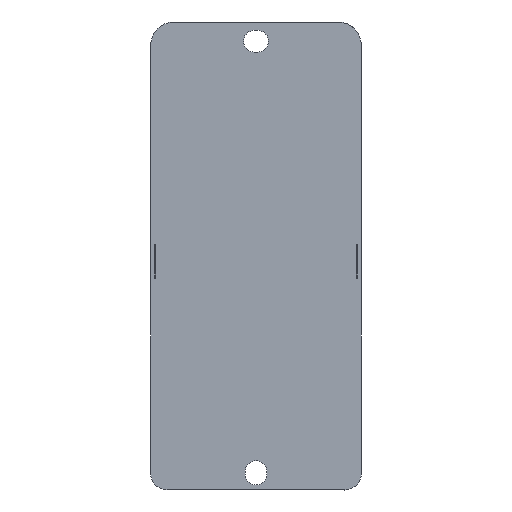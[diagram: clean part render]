
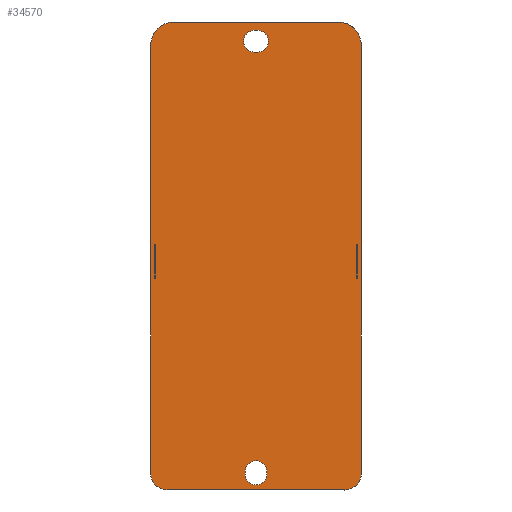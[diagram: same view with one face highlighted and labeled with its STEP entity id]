
A CAD part, front view. The second image highlights one B-rep face of the part: STEP entity #34570.
In plain terms, the highlighted planar face has unit normal (0, -1, 0).
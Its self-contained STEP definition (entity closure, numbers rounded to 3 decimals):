
#23259=CARTESIAN_POINT('',(-26.5,0.,-50.46));
#23260=DIRECTION('',(0.,1.,0.));
#23261=DIRECTION('',(0.,0.,-1.));
#23262=AXIS2_PLACEMENT_3D('',#23259,#23260,#23261);
#23264=DIRECTION('',(0.,0.,1.));
#23265=VECTOR('',#23264,128.);
#23266=CARTESIAN_POINT('',(-31.5,0.,-50.46));
#23267=LINE('',#23266,#23265);
#23268=CARTESIAN_POINT('',(-24.5,0.,77.539));
#23269=DIRECTION('',(0.,1.,0.));
#23270=DIRECTION('',(-1.,0.,0.));
#23271=AXIS2_PLACEMENT_3D('',#23268,#23269,#23270);
#23273=DIRECTION('',(1.,0.,0.));
#23274=VECTOR('',#23273,49.);
#23275=CARTESIAN_POINT('',(-24.5,0.,
84.539));
#23276=LINE('',#23275,#23274);
#23277=CARTESIAN_POINT('',(24.5,0.,77.539));
#23278=DIRECTION('',(0.,1.,0.));
#23279=DIRECTION('',(0.,0.,1.));
#23280=AXIS2_PLACEMENT_3D('',#23277,#23278,#23279);
#23282=DIRECTION('',(0.,0.,-1.));
#23283=VECTOR('',#23282,128.);
#23284=CARTESIAN_POINT('',(31.5,0.,77.539));
#23285=LINE('',#23284,#23283);
#23286=CARTESIAN_POINT('',(26.5,0.,-50.46));
#23287=DIRECTION('',(0.,1.,0.));
#23288=DIRECTION('',(1.,0.,0.));
#23289=AXIS2_PLACEMENT_3D('',#23286,#23287,#23288);
#23291=DIRECTION('',(1.,0.,0.));
#23292=VECTOR('',#23291,0.3);
#23293=CARTESIAN_POINT('',(-30.3,0.,7.929));
#23294=LINE('',#23293,#23292);
#23295=DIRECTION('',(0.,0.,1.));
#23296=VECTOR('',#23295,10.143);
#23297=CARTESIAN_POINT('',(-30.,0.,7.929));
#23298=LINE('',#23297,#23296);
#23299=DIRECTION('',(-1.,0.,0.));
#23300=VECTOR('',#23299,0.3);
#23301=CARTESIAN_POINT('',(-30.,0.,18.071));
#23302=LINE('',#23301,#23300);
#23303=DIRECTION('',(0.,0.,-1.));
#23304=VECTOR('',#23303,10.143);
#23305=CARTESIAN_POINT('',(-30.3,0.,18.071));
#23306=LINE('',#23305,#23304);
#23307=CARTESIAN_POINT('',(0.,0.,-49.91));
#23308=DIRECTION('',(0.,-1.,0.));
#23309=DIRECTION('',(1.,0.,0.));
#23310=AXIS2_PLACEMENT_3D('',#23307,#23308,#23309);
#23312=DIRECTION('',(0.,0.,-1.));
#23313=VECTOR('',#23312,0.8);
#23314=CARTESIAN_POINT('',(-3.25,0.,-49.91));
#23315=LINE('',#23314,#23313);
#23316=CARTESIAN_POINT('',(0.,0.,-50.71));
#23317=DIRECTION('',(0.,-1.,0.));
#23318=DIRECTION('',(-1.,0.,0.));
#23319=AXIS2_PLACEMENT_3D('',#23316,#23317,#23318);
#23321=DIRECTION('',(0.,0.,1.));
#23322=VECTOR('',#23321,0.8);
#23323=CARTESIAN_POINT('',(3.25,0.,-50.71));
#23324=LINE('',#23323,#23322);
#23325=CARTESIAN_POINT('',(0.5,0.,78.79));
#23326=DIRECTION('',(0.,-1.,0.));
#23327=DIRECTION('',(0.,0.,-1.));
#23328=AXIS2_PLACEMENT_3D('',#23325,#23326,#23327);
#23330=CARTESIAN_POINT('',(0.5,0.,78.79));
#23331=DIRECTION('',(0.,-1.,0.));
#23332=DIRECTION('',(1.,0.,0.));
#23333=AXIS2_PLACEMENT_3D('',#23330,#23331,#23332);
#23335=CARTESIAN_POINT('',(-0.5,0.,78.79));
#23336=DIRECTION('',(0.,-1.,0.));
#23337=DIRECTION('',(0.,0.,1.));
#23338=AXIS2_PLACEMENT_3D('',#23335,#23336,#23337);
#23340=CARTESIAN_POINT('',(-0.5,0.,78.79));
#23341=DIRECTION('',(0.,-1.,0.));
#23342=DIRECTION('',(-1.,0.,0.));
#23343=AXIS2_PLACEMENT_3D('',#23340,#23341,#23342);
#23345=DIRECTION('',(-1.,0.,0.));
#23346=VECTOR('',#23345,0.3);
#23347=CARTESIAN_POINT('',(30.3,0.,18.071));
#23348=LINE('',#23347,#23346);
#23349=DIRECTION('',(0.,0.,-1.));
#23350=VECTOR('',#23349,10.143);
#23351=CARTESIAN_POINT('',(30.,0.,18.071));
#23352=LINE('',#23351,#23350);
#23353=DIRECTION('',(1.,0.,0.));
#23354=VECTOR('',#23353,0.3);
#23355=CARTESIAN_POINT('',(30.,0.,7.929));
#23356=LINE('',#23355,#23354);
#23357=DIRECTION('',(0.,0.,1.));
#23358=VECTOR('',#23357,10.143);
#23359=CARTESIAN_POINT('',(30.3,0.,7.929));
#23360=LINE('',#23359,#23358);
#24968=DIRECTION('',(-1.,0.,0.));
#24969=VECTOR('',#24968,1.);
#24970=CARTESIAN_POINT('',(0.5,0.,75.54));
#24971=LINE('',#24970,#24969);
#25002=DIRECTION('',(1.,0.,0.));
#25003=VECTOR('',#25002,1.);
#25004=CARTESIAN_POINT('',(-0.5,0.,82.04));
#25005=LINE('',#25004,#25003);
#25214=DIRECTION('',(1.,0.,0.));
#25215=VECTOR('',#25214,53.);
#25216=CARTESIAN_POINT('',(-26.5,0.,-55.46));
#25217=LINE('',#25216,#25215);
#32438=CARTESIAN_POINT('',(-26.5,0.,-55.46));
#32439=CARTESIAN_POINT('',(-31.5,0.,-50.46));
#32440=VERTEX_POINT('',#32438);
#32441=VERTEX_POINT('',#32439);
#32442=CARTESIAN_POINT('',(-31.5,0.,77.539));
#32443=VERTEX_POINT('',#32442);
#32444=CARTESIAN_POINT('',(-24.5,0.,84.539));
#32445=VERTEX_POINT('',#32444);
#32446=CARTESIAN_POINT('',(24.5,0.,84.539));
#32447=VERTEX_POINT('',#32446);
#32448=CARTESIAN_POINT('',(31.5,0.,77.539));
#32449=VERTEX_POINT('',#32448);
#32450=CARTESIAN_POINT('',(31.5,0.,-50.46));
#32451=VERTEX_POINT('',#32450);
#32452=CARTESIAN_POINT('',(26.5,0.,-55.46));
#32453=VERTEX_POINT('',#32452);
#32454=CARTESIAN_POINT('',(-30.3,0.,7.929));
#32455=CARTESIAN_POINT('',(-30.,0.,7.929));
#32456=VERTEX_POINT('',#32454);
#32457=VERTEX_POINT('',#32455);
#32458=CARTESIAN_POINT('',(-30.,0.,18.071));
#32459=VERTEX_POINT('',#32458);
#32460=CARTESIAN_POINT('',(-30.3,0.,18.071));
#32461=VERTEX_POINT('',#32460);
#32462=CARTESIAN_POINT('',(3.25,0.,-49.91));
#32463=CARTESIAN_POINT('',(-3.25,0.,-49.91));
#32464=VERTEX_POINT('',#32462);
#32465=VERTEX_POINT('',#32463);
#32466=CARTESIAN_POINT('',(-3.25,0.,-50.71));
#32467=VERTEX_POINT('',#32466);
#32468=CARTESIAN_POINT('',(3.25,0.,-50.71));
#32469=VERTEX_POINT('',#32468);
#32470=CARTESIAN_POINT('',(0.5,0.,75.54));
#32471=CARTESIAN_POINT('',(3.75,0.,78.79));
#32472=VERTEX_POINT('',#32470);
#32473=VERTEX_POINT('',#32471);
#32474=CARTESIAN_POINT('',(0.5,0.,82.04));
#32475=VERTEX_POINT('',#32474);
#32476=CARTESIAN_POINT('',(-0.5,0.,82.04));
#32477=VERTEX_POINT('',#32476);
#32478=CARTESIAN_POINT('',(-3.75,0.,78.79));
#32479=VERTEX_POINT('',#32478);
#32480=CARTESIAN_POINT('',(-0.5,0.,75.54));
#32481=VERTEX_POINT('',#32480);
#32482=CARTESIAN_POINT('',(30.3,0.,18.071));
#32483=CARTESIAN_POINT('',(30.,0.,18.071));
#32484=VERTEX_POINT('',#32482);
#32485=VERTEX_POINT('',#32483);
#32486=CARTESIAN_POINT('',(30.,0.,7.929));
#32487=VERTEX_POINT('',#32486);
#32488=CARTESIAN_POINT('',(30.3,0.,7.929));
#32489=VERTEX_POINT('',#32488);
#34503=CARTESIAN_POINT('',(-32.5,0.,98.5));
#34504=DIRECTION('',(0.,-1.,0.));
#34505=DIRECTION('',(0.,0.,-1.));
#34506=AXIS2_PLACEMENT_3D('',#34503,#34504,#34505);
#34507=PLANE('',#34506);
#34509=ORIENTED_EDGE('',*,*,#34508,.T.);
#34511=ORIENTED_EDGE('',*,*,#34510,.T.);
#34513=ORIENTED_EDGE('',*,*,#34512,.T.);
#34515=ORIENTED_EDGE('',*,*,#34514,.T.);
#34517=ORIENTED_EDGE('',*,*,#34516,.T.);
#34519=ORIENTED_EDGE('',*,*,#34518,.T.);
#34521=ORIENTED_EDGE('',*,*,#34520,.T.);
#34523=ORIENTED_EDGE('',*,*,#34522,.F.);
#34524=EDGE_LOOP('',(#34509,#34511,#34513,#34515,#34517,#34519,#34521,#34523));
#34525=FACE_OUTER_BOUND('',#34524,.F.);
#34527=ORIENTED_EDGE('',*,*,#34526,.T.);
#34529=ORIENTED_EDGE('',*,*,#34528,.T.);
#34531=ORIENTED_EDGE('',*,*,#34530,.T.);
#34533=ORIENTED_EDGE('',*,*,#34532,.T.);
#34534=EDGE_LOOP('',(#34527,#34529,#34531,#34533));
#34535=FACE_BOUND('',#34534,.F.);
#34537=ORIENTED_EDGE('',*,*,#34536,.T.);
#34539=ORIENTED_EDGE('',*,*,#34538,.T.);
#34541=ORIENTED_EDGE('',*,*,#34540,.T.);
#34543=ORIENTED_EDGE('',*,*,#34542,.T.);
#34544=EDGE_LOOP('',(#34537,#34539,#34541,#34543));
#34545=FACE_BOUND('',#34544,.F.);
#34547=ORIENTED_EDGE('',*,*,#34546,.T.);
#34549=ORIENTED_EDGE('',*,*,#34548,.T.);
#34551=ORIENTED_EDGE('',*,*,#34550,.F.);
#34553=ORIENTED_EDGE('',*,*,#34552,.T.);
#34555=ORIENTED_EDGE('',*,*,#34554,.T.);
#34557=ORIENTED_EDGE('',*,*,#34556,.F.);
#34558=EDGE_LOOP('',(#34547,#34549,#34551,#34553,#34555,#34557));
#34559=FACE_BOUND('',#34558,.F.);
#34561=ORIENTED_EDGE('',*,*,#34560,.T.);
#34563=ORIENTED_EDGE('',*,*,#34562,.T.);
#34565=ORIENTED_EDGE('',*,*,#34564,.T.);
#34567=ORIENTED_EDGE('',*,*,#34566,.T.);
#34568=EDGE_LOOP('',(#34561,#34563,#34565,#34567));
#34569=FACE_BOUND('',#34568,.F.);
#23263=CIRCLE('',#23262,5.);
#23272=CIRCLE('',#23271,7.);
#23281=CIRCLE('',#23280,7.);
#23290=CIRCLE('',#23289,5.);
#23311=CIRCLE('',#23310,3.25);
#23320=CIRCLE('',#23319,3.25);
#23329=CIRCLE('',#23328,3.25);
#23334=CIRCLE('',#23333,3.25);
#23339=CIRCLE('',#23338,3.25);
#23344=CIRCLE('',#23343,3.25);
#34508=EDGE_CURVE('',#32440,#32441,#23263,.T.);
#34510=EDGE_CURVE('',#32441,#32443,#23267,.T.);
#34512=EDGE_CURVE('',#32443,#32445,#23272,.T.);
#34514=EDGE_CURVE('',#32445,#32447,#23276,.T.);
#34516=EDGE_CURVE('',#32447,#32449,#23281,.T.);
#34518=EDGE_CURVE('',#32449,#32451,#23285,.T.);
#34520=EDGE_CURVE('',#32451,#32453,#23290,.T.);
#34522=EDGE_CURVE('',#32440,#32453,#25217,.T.);
#34526=EDGE_CURVE('',#32456,#32457,#23294,.T.);
#34528=EDGE_CURVE('',#32457,#32459,#23298,.T.);
#34530=EDGE_CURVE('',#32459,#32461,#23302,.T.);
#34532=EDGE_CURVE('',#32461,#32456,#23306,.T.);
#34536=EDGE_CURVE('',#32464,#32465,#23311,.T.);
#34538=EDGE_CURVE('',#32465,#32467,#23315,.T.);
#34540=EDGE_CURVE('',#32467,#32469,#23320,.T.);
#34542=EDGE_CURVE('',#32469,#32464,#23324,.T.);
#34546=EDGE_CURVE('',#32472,#32473,#23329,.T.);
#34548=EDGE_CURVE('',#32473,#32475,#23334,.T.);
#34550=EDGE_CURVE('',#32477,#32475,#25005,.T.);
#34552=EDGE_CURVE('',#32477,#32479,#23339,.T.);
#34554=EDGE_CURVE('',#32479,#32481,#23344,.T.);
#34556=EDGE_CURVE('',#32472,#32481,#24971,.T.);
#34560=EDGE_CURVE('',#32484,#32485,#23348,.T.);
#34562=EDGE_CURVE('',#32485,#32487,#23352,.T.);
#34564=EDGE_CURVE('',#32487,#32489,#23356,.T.);
#34566=EDGE_CURVE('',#32489,#32484,#23360,.T.);
#34570=ADVANCED_FACE('',(#34525,#34535,#34545,#34559,#34569),#34507,.T.);
